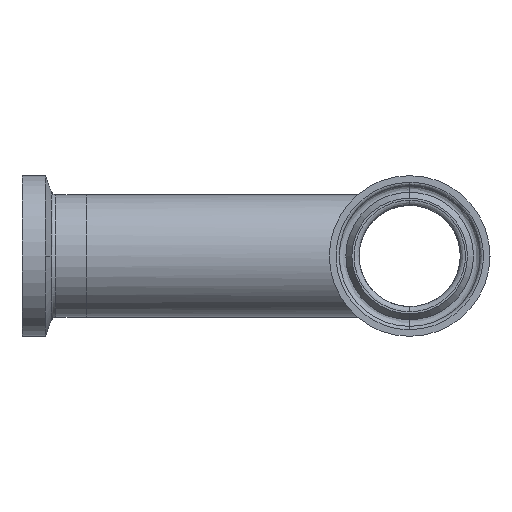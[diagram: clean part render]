
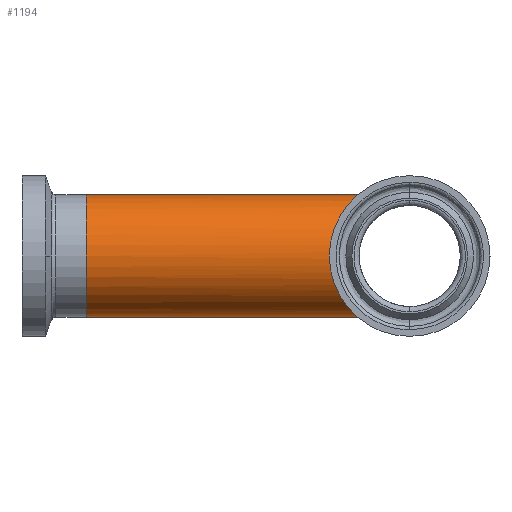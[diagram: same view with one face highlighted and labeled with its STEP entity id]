
A CAD part, left-side view. The second image highlights one B-rep face of the part: STEP entity #1194.
In plain terms, the highlighted cylindrical face has radius 9.525 mm (diameter 19.05 mm), a partial arc.
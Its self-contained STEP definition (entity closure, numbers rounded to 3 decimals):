
#79 = LINE ( 'NONE', #2326, #1212 ) ;
#95 = CARTESIAN_POINT ( 'NONE',  ( 0., 0., -9.525 ) ) ;
#115 = VERTEX_POINT ( 'NONE', #1439 ) ;
#146 = LINE ( 'NONE', #2103, #1797 ) ;
#156 = ORIENTED_EDGE ( 'NONE', *, *, #2720, .F. ) ;
#198 = ORIENTED_EDGE ( 'NONE', *, *, #2576, .F. ) ;
#384 = DIRECTION ( 'NONE',  ( 0., 1., 0. ) ) ;
#613 = VERTEX_POINT ( 'NONE', #1385 ) ;
#624 = DIRECTION ( 'NONE',  ( 0., -1., 0. ) ) ;
#626 = DIRECTION ( 'NONE',  ( 0., 1., 0. ) ) ;
#722 = VERTEX_POINT ( 'NONE', #1399 ) ;
#956 = AXIS2_PLACEMENT_3D ( 'NONE', #2321, #2245, #1518 ) ;
#1194 = ADVANCED_FACE ( 'NONE', ( #2515 ), #1910, .T. ) ;
#1212 = VECTOR ( 'NONE', #626, 1000. ) ;
#1275 = CIRCLE ( 'NONE', #1423, 9.525 ) ;
#1385 = CARTESIAN_POINT ( 'NONE',  ( 0., 0., -9.525 ) ) ;
#1399 = CARTESIAN_POINT ( 'NONE',  ( 0., 50.3, -9.525 ) ) ;
#1421 = CARTESIAN_POINT ( 'NONE',  ( -19.05, 19.05, -9.525 ) ) ;
#1423 = AXIS2_PLACEMENT_3D ( 'NONE', #1901, #624, #2126 ) ;
#1439 = CARTESIAN_POINT ( 'NONE',  ( 0., 0., 9.525 ) ) ;
#1518 = DIRECTION ( 'NONE',  ( 0., 0., 1. ) ) ;
#1713 = CARTESIAN_POINT ( 'NONE',  ( 0., 0., 9.525 ) ) ;
#1728 = ORIENTED_EDGE ( 'NONE', *, *, #2596, .T. ) ;
#1797 = VECTOR ( 'NONE', #384, 1000. ) ;
#1798 = ORIENTED_EDGE ( 'NONE', *, *, #1855, .T. ) ;
#1816 = CARTESIAN_POINT ( 'NONE',  ( 0., 50.3, 9.525 ) ) ;
#1855 = EDGE_CURVE ( 'NONE', #115, #2318, #79, .T. ) ;
#1901 = CARTESIAN_POINT ( 'NONE',  ( 0., 50.3, 0. ) ) ;
#1910 = CYLINDRICAL_SURFACE ( 'NONE', #956, 9.525 ) ;
#2103 = CARTESIAN_POINT ( 'NONE',  ( 0., -500000., -9.525 ) ) ;
#2126 = DIRECTION ( 'NONE',  ( 0., 0., 1. ) ) ;
#2153 = CARTESIAN_POINT ( 'NONE',  ( -19.05, 19.05, 9.525 ) ) ;
#2245 = DIRECTION ( 'NONE',  ( 0., 1., 0. ) ) ;
#2318 = VERTEX_POINT ( 'NONE', #1816 ) ;
#2321 = CARTESIAN_POINT ( 'NONE',  ( 0., -500000., 0. ) ) ;
#2326 = CARTESIAN_POINT ( 'NONE',  ( 0., -500000., 9.525 ) ) ;
#2515 = FACE_OUTER_BOUND ( 'NONE', #2700, .T. ) ;
#2576 = EDGE_CURVE ( 'NONE', #613, #722, #146, .T. ) ;
#2596 = EDGE_CURVE ( 'NONE', #2318, #722, #1275, .T. ) ;
#2610 =( BOUNDED_CURVE ( )  B_SPLINE_CURVE ( 3, ( #1713, #2153, #1421, #95 ),
 .UNSPECIFIED., .F., .T. ) 
 B_SPLINE_CURVE_WITH_KNOTS ( ( 4, 4 ),
 ( 4.712, 7.854 ),
 .UNSPECIFIED. ) 
 CURVE ( )  GEOMETRIC_REPRESENTATION_ITEM ( )  RATIONAL_B_SPLINE_CURVE ( ( 1., 0.333, 0.333, 1. ) ) 
 REPRESENTATION_ITEM ( '' )  );
#2700 = EDGE_LOOP ( 'NONE', ( #198, #156, #1798, #1728 ) ) ;
#2720 = EDGE_CURVE ( 'NONE', #115, #613, #2610, .T. ) ;
